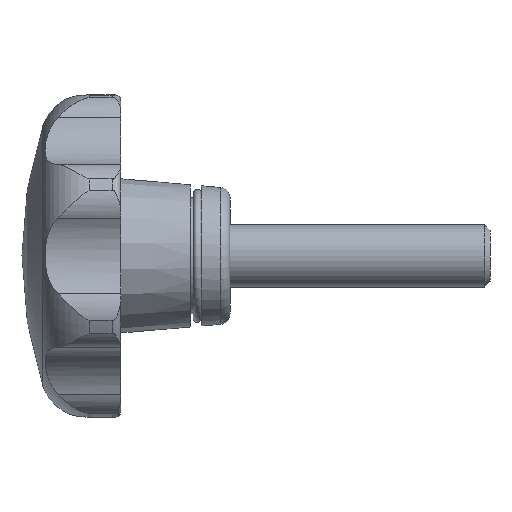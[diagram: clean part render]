
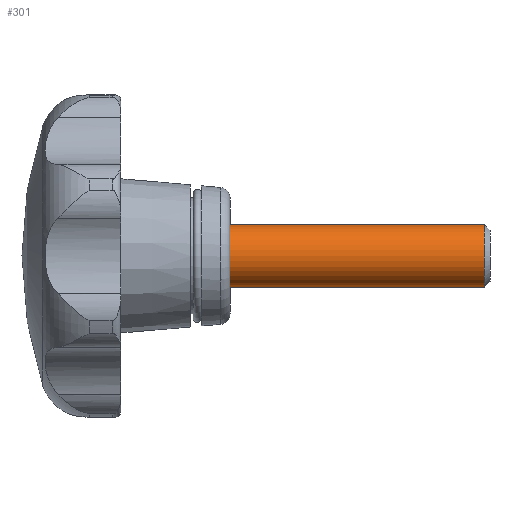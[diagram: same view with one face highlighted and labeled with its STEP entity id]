
A CAD part, left-side view. The second image highlights one B-rep face of the part: STEP entity #301.
In plain terms, the highlighted cylindrical face has radius 6 mm (diameter 12 mm), a full revolution.
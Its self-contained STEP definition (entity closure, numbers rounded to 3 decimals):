
#301 = ADVANCED_FACE( '', ( #647, #648 ), #649, .T. );
#647 = FACE_OUTER_BOUND( '', #1044, .T. );
#648 = FACE_OUTER_BOUND( '', #1045, .T. );
#649 = CYLINDRICAL_SURFACE( '', #1046, 6. );
#1044 = EDGE_LOOP( '', ( #2193 ) );
#1045 = EDGE_LOOP( '', ( #2194 ) );
#1046 = AXIS2_PLACEMENT_3D( '', #2195, #2196, #2197 );
#2193 = ORIENTED_EDGE( '', *, *, #2823, .F. );
#2194 = ORIENTED_EDGE( '', *, *, #2767, .T. );
#2195 = CARTESIAN_POINT( '', ( 0., -50., 0. ) );
#2196 = DIRECTION( '', ( 0., 1., 0. ) );
#2197 = DIRECTION( '', ( 0., 0., -1. ) );
#2767 = EDGE_CURVE( '', #3401, #3401, #3402, .T. );
#2823 = EDGE_CURVE( '', #3475, #3475, #3476, .T. );
#3401 = VERTEX_POINT( '', #5315 );
#3402 = CIRCLE( '', #5316, 6. );
#3475 = VERTEX_POINT( '', #5422 );
#3476 = CIRCLE( '', #5423, 6. );
#5315 = CARTESIAN_POINT( '', ( 0., 0., -6. ) );
#5316 = AXIS2_PLACEMENT_3D( '', #6094, #6095, #6096 );
#5422 = CARTESIAN_POINT( '', ( 0., -48.927, -6. ) );
#5423 = AXIS2_PLACEMENT_3D( '', #6218, #6219, #6220 );
#6094 = CARTESIAN_POINT( '', ( 0., 0., 0. ) );
#6095 = DIRECTION( '', ( 0., -1., 0. ) );
#6096 = DIRECTION( '', ( 0., 0., -1. ) );
#6218 = CARTESIAN_POINT( '', ( 0., -48.927, 0. ) );
#6219 = DIRECTION( '', ( 0., -1., 0. ) );
#6220 = DIRECTION( '', ( 0., 0., -1. ) );
